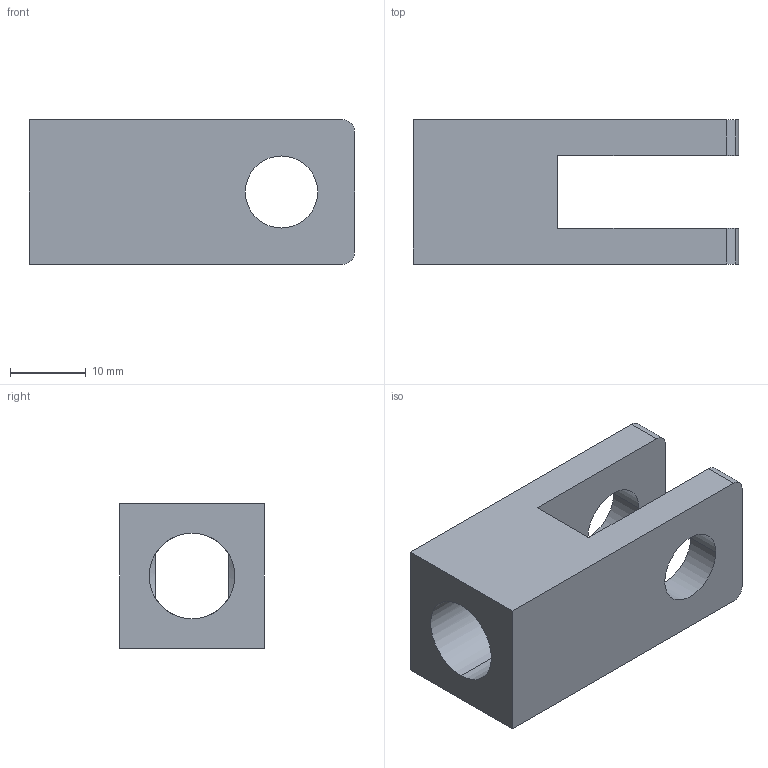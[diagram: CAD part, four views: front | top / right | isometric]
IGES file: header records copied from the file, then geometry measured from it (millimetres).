
Global section: file name: C:\Documents and Settings\Administrator\Desktop\Transfer Temp\clevis2000.igs; native system: AutoDesk Inventor R2.0 ; preprocessor: AutoDesk Inventor Iges Exporter R2.0; author: No Author specified; organization: No Organization specified; date: 20020127.140738; units: inch
Bounding box: 42.93 x 19.05 x 19.05 mm (x, y, z)
Surface area: 4911.6 mm2 (no closed solid volume)
Topology: 0 solids, 0 shells, 27 faces, 148 edges, 148 vertices
Faces by surface type: bspline 19, revolution 8
